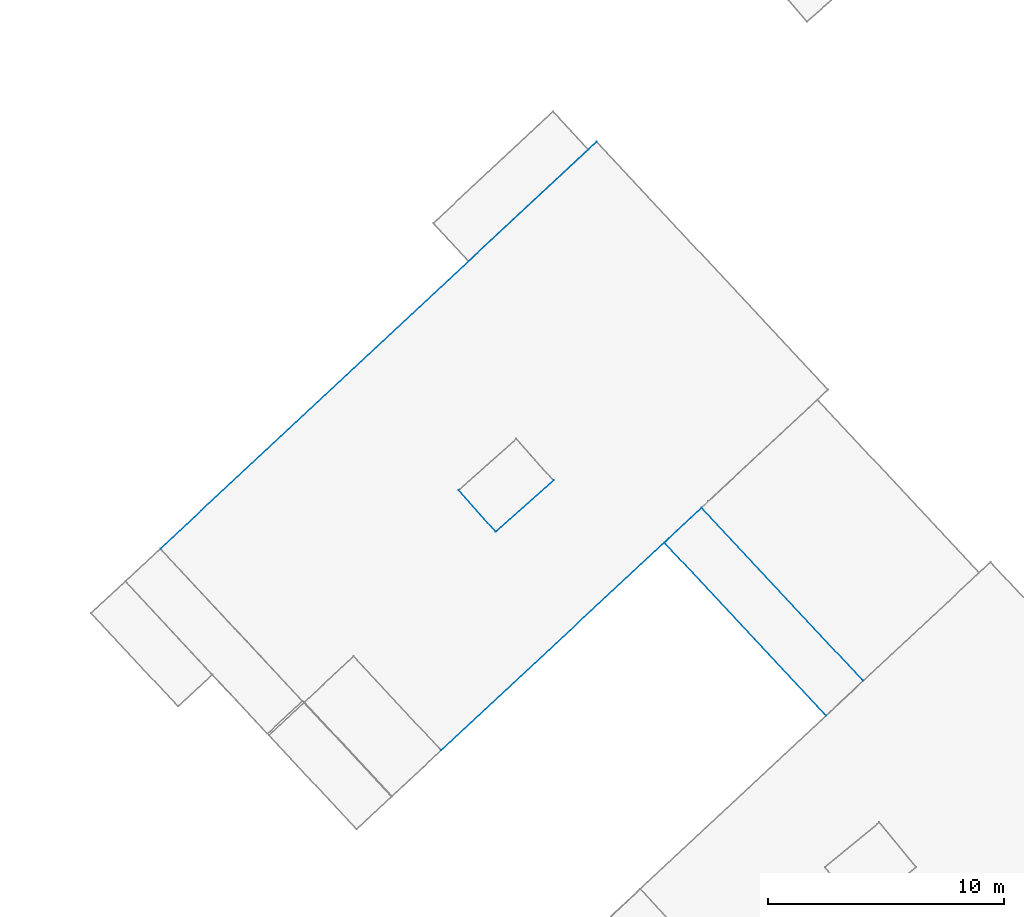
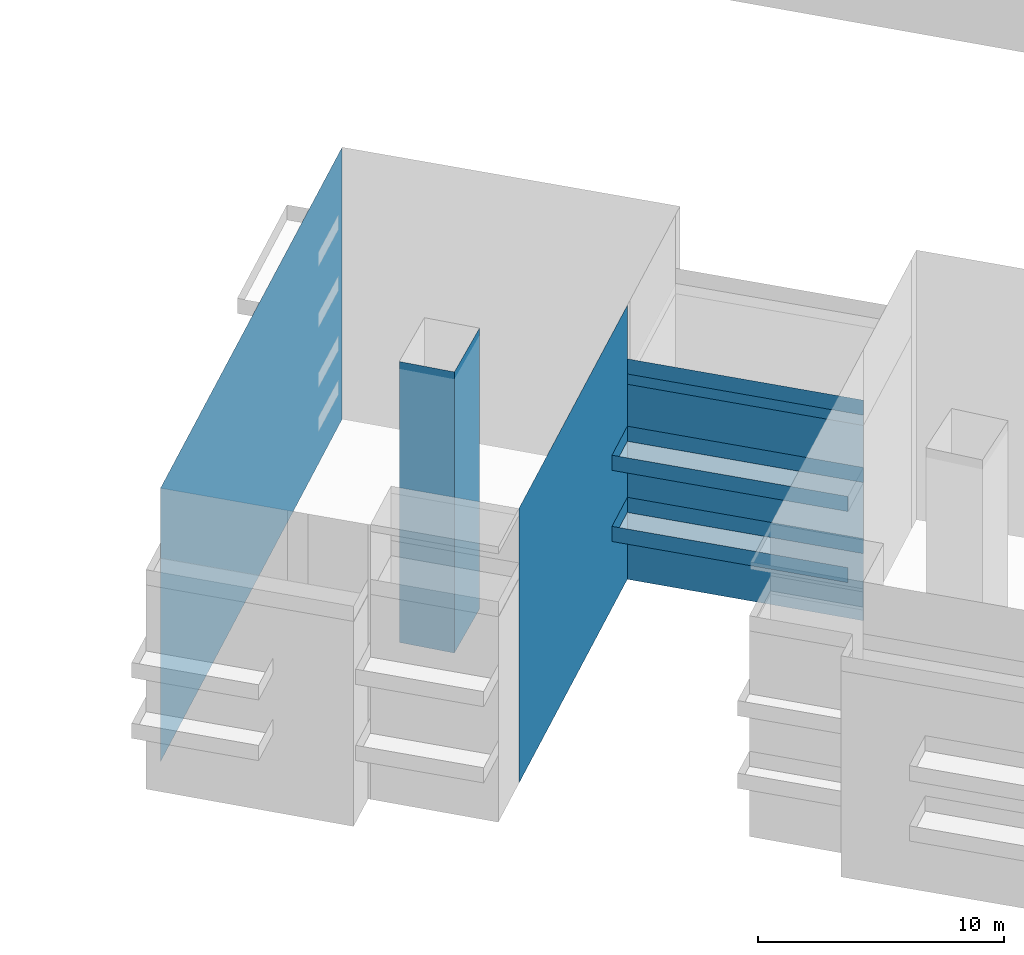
# Not in any storey, part 25 of 136: 20 walls.
"""IFC4 building model written with IfcOpenShell, lengths in metres."""

from ifc_helpers import new_model, entity, si_unit, converted_unit, frame, origin, place, context, subcontext, project, spatial, face_set, surface_model, element, save


model = new_model("IFC4")

# Units and contexts
model_context = context("Model", 3, precision=1e-05, world=origin())
body_context = subcontext(model_context, "Body", "Model", "MODEL_VIEW")
ifc_project = project(units=[converted_unit("PLANEANGLEUNIT", "DEGREE", entity("IfcRatioMeasure", 0.0174532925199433), si_unit("PLANEANGLEUNIT", "RADIAN"), dimensions=[0, 0, 0, 0, 0, 0, 0]), si_unit("AREAUNIT", "SQUARE_METRE"), si_unit("LENGTHUNIT", "METRE")], contexts=[model_context])

# Site, building
site_placement = place(None, origin())
site = spatial("IfcSite", under=ifc_project, at=site_placement, Name="_site")
building_1_placement = place(site_placement, origin())
building_1 = spatial("IfcBuilding", under=site, at=building_1_placement, Name="_building")

# Walls
wall_1_placement = place(building_1_placement, origin())
element("IfcWall", 1, at=wall_1_placement, inside=building_1, Name="Wall", PredefinedType="NOTDEFINED", context=body_context, shape_type="SurfaceModel", body=[
    surface_model("IfcFaceBasedSurfaceModel", [(134.49, -9.28, 44.99), (127.64, -1.95, 44.99), (127.64, -1.95, 45.74), (134.49, -9.28, 45.74)], [face_set([[[0, 1, 2, 3]]])]),
])
wall_2_placement = place(building_1_placement, origin())
element("IfcWall", 2, at=wall_2_placement, inside=building_1, Name="Wall", PredefinedType="NOTDEFINED", context=body_context, shape_type="SurfaceModel", body=[
    surface_model("IfcFaceBasedSurfaceModel", [(127.64, -1.95, 44.99), (129.21, -0.479, 44.99), (129.21, -0.479, 45.74), (127.64, -1.95, 45.74)], [face_set([[[0, 1, 2, 3]]])]),
])
wall_3_placement = place(building_1_placement, origin())
element("IfcWall", 3, at=wall_3_placement, inside=building_1, Name="Wall", PredefinedType="NOTDEFINED", context=body_context, shape_type="SurfaceModel", body=[
    surface_model("IfcFaceBasedSurfaceModel", [(134.49, -9.28, 44.99), (127.64, -1.95, 44.99), (127.64, -1.95, 45.74), (134.49, -9.28, 45.74)], [face_set([[[0, 1, 2, 3]]])]),
])
wall_4_placement = place(building_1_placement, origin())
element("IfcWall", 4, at=wall_4_placement, inside=building_1, Name="Wall", PredefinedType="NOTDEFINED", context=body_context, shape_type="SurfaceModel", body=[
    surface_model("IfcFaceBasedSurfaceModel", [(129.21, -0.479, 44.99), (136.06, -7.81, 44.99), (136.06, -7.81, 45.74), (129.21, -0.479, 45.74)], [face_set([[[0, 1, 2, 3]]])]),
])
wall_5_placement = place(building_1_placement, origin())
element("IfcWall", 5, at=wall_5_placement, inside=building_1, Name="Wall", PredefinedType="NOTDEFINED", context=body_context, shape_type="SurfaceModel", body=[
    surface_model("IfcFaceBasedSurfaceModel", [(136.06, -7.81, 48.33), (129.21, -0.479, 48.33), (129.21, -0.479, 38.142), (136.06, -7.81, 38.131)], [face_set([[[0, 1, 2, 3]]])]),
])
wall_6_placement = place(building_1_placement, origin())
element("IfcWall", 6, at=wall_6_placement, inside=building_1, Name="Wall", PredefinedType="NOTDEFINED", context=body_context, shape_type="SurfaceModel", body=[
    surface_model("IfcFaceBasedSurfaceModel", [(136.06, -7.81, 47.82), (129.21, -0.479, 47.82), (129.21, -0.479, 38.142), (136.06, -7.81, 38.131)], [face_set([[[0, 1, 2, 3]]])]),
])
wall_7_placement = place(building_1_placement, origin())
element("IfcWall", 7, at=wall_7_placement, inside=building_1, Name="Wall", PredefinedType="NOTDEFINED", context=body_context, shape_type="SurfaceModel", body=[
    surface_model("IfcFaceBasedSurfaceModel", [(129.21, -0.479, 51.74), (118.19, -10.75, 51.74), (118.19, -10.75, 38.104), (129.21, -0.479, 38.142)], [face_set([[[0, 1, 2, 3]]])]),
])
wall_8_placement = place(building_1_placement, origin())
element("IfcWall", 8, at=wall_8_placement, inside=building_1, Name="Wall", PredefinedType="NOTDEFINED", context=body_context, shape_type="SurfaceModel", body=[
    surface_model("IfcFaceBasedSurfaceModel", [(106.3, -2.21, 51.74), (124.77, 15.021, 51.74), (124.77, 15.021, 38.238), (106.3, -2.21, 38.16)], [face_set([[[0, 1, 2, 3]]])]),
])
wall_9_placement = place(building_1_placement, origin())
element("IfcWall", 9, at=wall_9_placement, inside=building_1, Name="Wall", PredefinedType="NOTDEFINED", context=body_context, shape_type="SurfaceModel", body=[
    surface_model("IfcFaceBasedSurfaceModel", [(134.49, -9.28, 41.46), (127.64, -1.95, 41.46), (127.64, -1.95, 42.21), (134.49, -9.28, 42.21)], [face_set([[[0, 1, 2, 3]]])]),
])
wall_10_placement = place(building_1_placement, origin())
element("IfcWall", 10, at=wall_10_placement, inside=building_1, Name="Wall", PredefinedType="NOTDEFINED", context=body_context, shape_type="SurfaceModel", body=[
    surface_model("IfcFaceBasedSurfaceModel", [(127.64, -1.95, 41.46), (129.21, -0.479, 41.46), (129.21, -0.479, 42.21), (127.64, -1.95, 42.21)], [face_set([[[0, 1, 2, 3]]])]),
])
wall_11_placement = place(building_1_placement, origin())
element("IfcWall", 11, at=wall_11_placement, inside=building_1, Name="Wall", PredefinedType="NOTDEFINED", context=body_context, shape_type="SurfaceModel", body=[
    surface_model("IfcFaceBasedSurfaceModel", [(134.49, -9.28, 41.46), (127.64, -1.95, 41.46), (127.64, -1.95, 42.21), (134.49, -9.28, 42.21)], [face_set([[[0, 1, 2, 3]]])]),
])
wall_12_placement = place(building_1_placement, origin())
element("IfcWall", 12, at=wall_12_placement, inside=building_1, Name="Wall", PredefinedType="NOTDEFINED", context=body_context, shape_type="SurfaceModel", body=[
    surface_model("IfcFaceBasedSurfaceModel", [(129.21, -0.479, 41.46), (136.06, -7.81, 41.46), (136.06, -7.81, 42.21), (129.21, -0.479, 42.21)], [face_set([[[0, 1, 2, 3]]])]),
])
for number, where, name in (
    (13, (0.0, 0.0, 0.0), "Wall"),
    (14, (0.0, 0.0, 0.0), "Wall"),
):
    element("IfcWall", number, at=place(building_1_placement, frame(where)), inside=building_1, Name=name, PredefinedType="NOTDEFINED", context=body_context, shape_type="SurfaceModel", body=[
        surface_model("IfcFaceBasedSurfaceModel", [(136.06, -7.81, 48.33), (129.21, -0.479, 48.33), (129.21, -0.479, 49.08), (136.06, -7.81, 49.08)], [face_set([[[0, 1, 2, 3]]])]),
    ])

# Building
building_2_placement = place(site_placement, origin())
building_2 = spatial("IfcBuilding", under=site, at=building_2_placement, Name="_building")

# Walls
wall_13_placement = place(building_2_placement, origin())
element("IfcWall", 15, at=wall_13_placement, inside=building_2, Name="Wall", PredefinedType="NOTDEFINED", context=body_context, shape_type="SurfaceModel", body=[
    surface_model("IfcFaceBasedSurfaceModel", [(127.64, -1.95, 44.99), (129.21, -0.479, 44.99), (129.21, -0.479, 45.74), (127.64, -1.95, 45.74)], [face_set([[[0, 1, 2, 3]]])]),
])
wall_14_placement = place(building_2_placement, origin())
element("IfcWall", 16, at=wall_14_placement, inside=building_2, Name="Wall", PredefinedType="NOTDEFINED", context=body_context, shape_type="SurfaceModel", body=[
    surface_model("IfcFaceBasedSurfaceModel", [(129.21, -0.479, 44.99), (136.06, -7.81, 44.99), (136.06, -7.81, 45.74), (129.21, -0.479, 45.74)], [face_set([[[0, 1, 2, 3]]])]),
])
wall_15_placement = place(building_2_placement, origin())
element("IfcWall", 17, at=wall_15_placement, inside=building_2, Name="Wall", PredefinedType="NOTDEFINED", context=body_context, shape_type="SurfaceModel", body=[
    surface_model("IfcFaceBasedSurfaceModel", [(120.5, -1.5, 52.1), (118.93, 0.26, 52.1), (118.93, 0.26, 38.157), (120.5, -1.5, 38.147)], [face_set([[[0, 1, 2, 3]]])]),
])
wall_16_placement = place(building_2_placement, origin())
element("IfcWall", 18, at=wall_16_placement, inside=building_2, Name="Wall", PredefinedType="NOTDEFINED", context=body_context, shape_type="SurfaceModel", body=[
    surface_model("IfcFaceBasedSurfaceModel", [(122.94, 0.68, 52.1), (120.5, -1.5, 52.1), (120.5, -1.5, 38.147), (122.94, 0.68, 38.155)], [face_set([[[0, 1, 2, 3]]])]),
])
wall_17_placement = place(building_2_placement, origin())
element("IfcWall", 19, at=wall_17_placement, inside=building_2, Name="Wall", PredefinedType="NOTDEFINED", context=body_context, shape_type="SurfaceModel", body=[
    surface_model("IfcFaceBasedSurfaceModel", [(127.64, -1.95, 41.46), (129.21, -0.479, 41.46), (129.21, -0.479, 42.21), (127.64, -1.95, 42.21)], [face_set([[[0, 1, 2, 3]]])]),
])
wall_18_placement = place(building_2_placement, origin())
element("IfcWall", 20, at=wall_18_placement, inside=building_2, Name="Wall", PredefinedType="NOTDEFINED", context=body_context, shape_type="SurfaceModel", body=[
    surface_model("IfcFaceBasedSurfaceModel", [(129.21, -0.479, 41.46), (136.06, -7.81, 41.46), (136.06, -7.81, 42.21), (129.21, -0.479, 42.21)], [face_set([[[0, 1, 2, 3]]])]),
])

save(model, "model.ifc")
